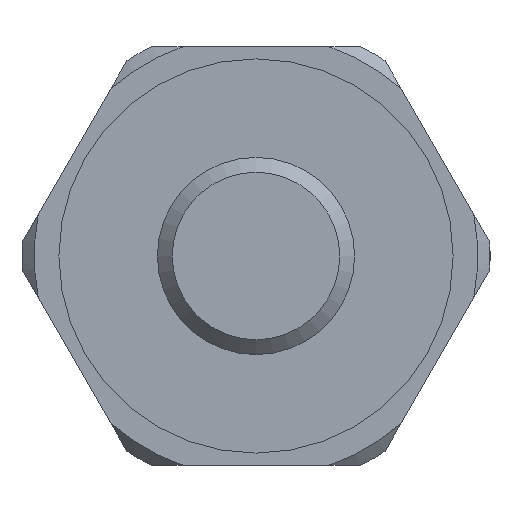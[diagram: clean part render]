
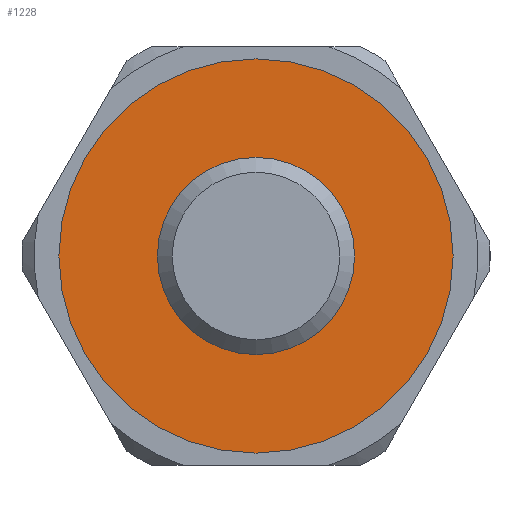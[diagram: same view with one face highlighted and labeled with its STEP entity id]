
A CAD part, left-side view. The second image highlights one B-rep face of the part: STEP entity #1228.
In plain terms, the highlighted planar face has unit normal (-1, 0, 0).
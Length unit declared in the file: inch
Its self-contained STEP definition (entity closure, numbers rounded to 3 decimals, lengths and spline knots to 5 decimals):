
#63=FACE_BOUND('',#221,.T.);
#88=PLANE('',#1386);
#147=FACE_OUTER_BOUND('',#220,.T.);
#220=EDGE_LOOP('',(#1001,#1002));
#221=EDGE_LOOP('',(#1003,#1004));
#376=CIRCLE('',#1314,0.1378);
#377=CIRCLE('',#1315,0.1378);
#412=CIRCLE('',#1384,0.31496);
#413=CIRCLE('',#1385,0.31496);
#474=VERTEX_POINT('',#1904);
#475=VERTEX_POINT('',#1905);
#534=VERTEX_POINT('',#2139);
#535=VERTEX_POINT('',#2140);
#604=EDGE_CURVE('',#474,#475,#376,.T.);
#605=EDGE_CURVE('',#475,#474,#377,.T.);
#697=EDGE_CURVE('',#534,#535,#412,.T.);
#698=EDGE_CURVE('',#535,#534,#413,.T.);
#1001=ORIENTED_EDGE('',*,*,#697,.T.);
#1002=ORIENTED_EDGE('',*,*,#698,.T.);
#1003=ORIENTED_EDGE('',*,*,#604,.T.);
#1004=ORIENTED_EDGE('',*,*,#605,.T.);
#1228=ADVANCED_FACE('',(#147,#63),#88,.T.);
#1314=AXIS2_PLACEMENT_3D('',#1906,#1536,#1537);
#1315=AXIS2_PLACEMENT_3D('',#1907,#1538,#1539);
#1384=AXIS2_PLACEMENT_3D('',#2141,#1709,#1710);
#1385=AXIS2_PLACEMENT_3D('',#2142,#1711,#1712);
#1386=AXIS2_PLACEMENT_3D('',#2144,#1714,#1715);
#1536=DIRECTION('center_axis',(1.,0.,0.));
#1537=DIRECTION('ref_axis',(0.,0.,1.));
#1538=DIRECTION('center_axis',(1.,0.,0.));
#1539=DIRECTION('ref_axis',(0.,0.,1.));
#1709=DIRECTION('center_axis',(-1.,0.,0.));
#1710=DIRECTION('ref_axis',(0.,0.,1.));
#1711=DIRECTION('center_axis',(-1.,0.,0.));
#1712=DIRECTION('ref_axis',(0.,0.,1.));
#1714=DIRECTION('center_axis',(-1.,0.,0.));
#1715=DIRECTION('ref_axis',(0.,0.,1.));
#1904=CARTESIAN_POINT('',(-2.21862,-0.42833,0.56421));
#1905=CARTESIAN_POINT('',(-2.21862,-0.42833,0.28862));
#1906=CARTESIAN_POINT('Origin',(-2.21862,-0.42833,0.42641));
#1907=CARTESIAN_POINT('Origin',(-2.21862,-0.42833,0.42641));
#2139=CARTESIAN_POINT('',(-2.21862,-0.42833,0.74137));
#2140=CARTESIAN_POINT('',(-2.21862,-0.42833,0.11145));
#2141=CARTESIAN_POINT('Origin',(-2.21862,-0.42833,0.42641));
#2142=CARTESIAN_POINT('Origin',(-2.21862,-0.42833,0.42641));
#2144=CARTESIAN_POINT('Origin',(-2.21862,-0.42833,0.42641));
